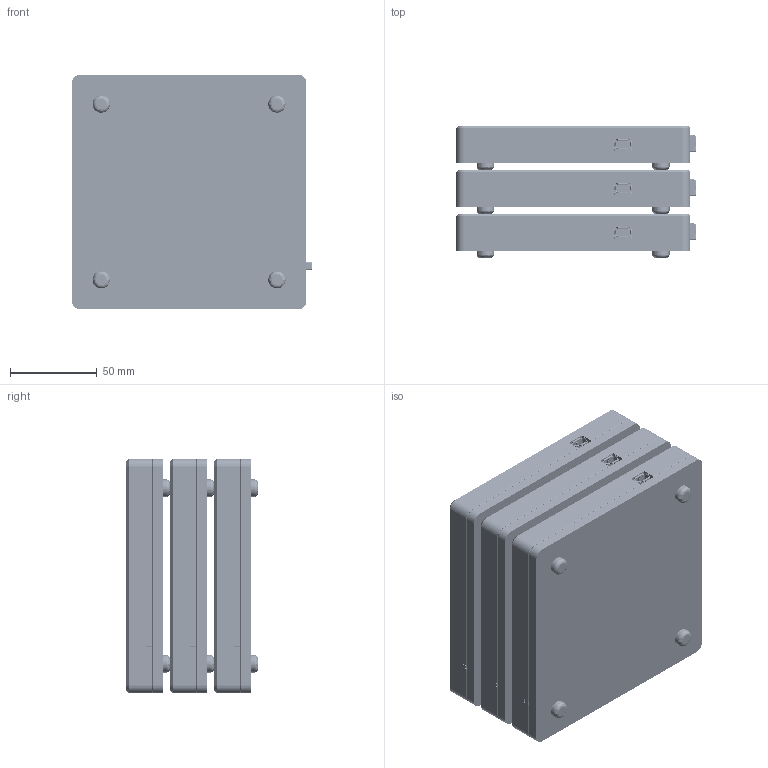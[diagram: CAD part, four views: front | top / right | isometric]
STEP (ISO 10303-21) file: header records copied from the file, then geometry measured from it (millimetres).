
FILE_DESCRIPTION (( 'STEP AP214' ), '1' );
FILE_NAME ('3Stacked_Driver_3axis.STEP', '2021-11-26T07:42:11', ( '' ), ( '' ), 'SwSTEP 2.0', 'SolidWorks 2016', '' );
FILE_SCHEMA (( 'AUTOMOTIVE_DESIGN' ));
Length unit declared in the file: millimetre
Products named in the file (28): 3Stacked_Driver_3axis; UX60SC-MB-5S8; 100014_R1.0_PCB-External Trig RS485; SOLID_5; SOLID; Top controller; R_1812_4532Metric; Ext trigg_485_PCB; SOLID_4; IX61G-B-10P; 5151105F; COMPOUND; IX60G-B-10P; JACK-C-PC-10A-RA(R)--3DModel-STEP-56544; SOLID_2; 04.METAL_SHELL-B; Bottom controller; TR Fastenings Ltd-M3X14mm_M3X14mm; R_1206_3216Metric; TSSOP-14_4.4x5mm_P0.65mm; C_0603_1608Metric; Dialight 597-3301-507F; PCB connectors etc; SOLID_3; BPM-2; R_0603_1608Metric; PHB2UEESN1ANS; PBH2UxxNAG1Cxxx cap
Assembly tree (95 placements, depth 4):
  3Stacked_Driver_3axis
    Bottom controller  x3
    Top controller  x3
    PCB connectors etc  x3
    5151105F  x3
    Dialight 597-3301-507F  x3
    TR Fastenings Ltd-M3X14mm_M3X14mm  x12
    IX61G-B-10P  x9
    UX60SC-MB-5S8  x3
    PHB2UEESN1ANS  x3
    PBH2UxxNAG1Cxxx cap  x3
    JACK-C-PC-10A-RA(R)--3DModel-STEP-56544  x3
    BPM-2  x12
    IX60G-B-10P  x3
      04.METAL_SHELL-B
    Ext trigg_485_PCB  x3
    100014_R1.0_PCB-External Trig RS485  x3
      TSSOP-14_4.4x5mm_P0.65mm
        SOLID
      C_0603_1608Metric
        SOLID_2
      R_0603_1608Metric
        SOLID_3
      R_1812_4532Metric
        SOLID_4
      R_1206_3216Metric
        SOLID_5
      COMPOUND
Bounding box: 138.38 x 75.9 x 135 mm (x, y, z)
Volume: 526936.4 mm3; surface area: 422545.9 mm2
Topology: 150 solids, 150 shells, 14934 faces, 41505 edges, 27018 vertices
Faces by surface type: plane 9399, cylinder 4839, cone 354, bspline 309, torus 33
Entity records: 136511 total; most frequent: CARTESIAN_POINT 28859, ORIENTED_EDGE 20334, DIRECTION 18916, EDGE_CURVE 10167, LINE 7544, VECTOR 7544, VERTEX_POINT 6657, AXIS2_PLACEMENT_3D 5686
